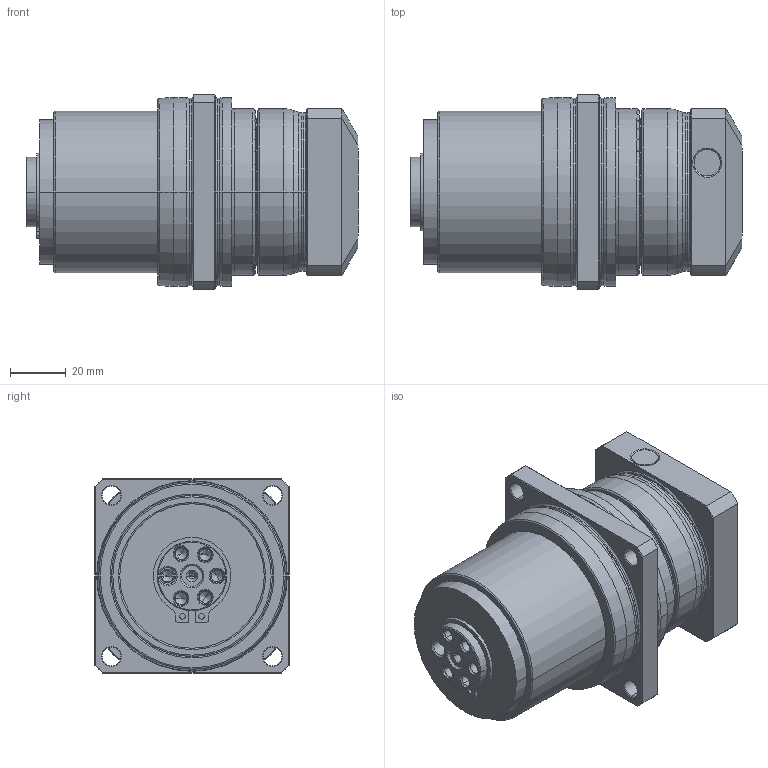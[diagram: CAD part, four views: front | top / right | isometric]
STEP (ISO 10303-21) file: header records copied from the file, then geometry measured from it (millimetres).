
FILE_DESCRIPTION((''),'2;1');
FILE_NAME('PL070_2ST_11-P0411200101_ASM','2016-06-04T',('d00435'),(''),'PRO/ENGINEER BY PARAMETRIC TECHNOLOGY CORPORATION, 2008410','PRO/ENGINEER BY PARAMETRIC TECHNOLOGY CORPORATION, 2008410','');
FILE_SCHEMA(('CONFIG_CONTROL_DESIGN'));
Length unit declared in the file: millimetre
Products named in the file (10): P0272200001; P1356200001; P0366200001; P0274200001; P1324200101; 22802000015; P0941201001; P0503200005; P0411200101; PL070_2ST_11-P0411200101_ASM
Assembly tree (9 placements, depth 2):
  PL070_2ST_11-P0411200101_ASM
    P0272200001
    P1356200001
    P0366200001
    P0274200001
    P1324200101
    22802000015
    P0941201001
    P0503200005
    P0411200101
Bounding box: 119.5 x 70 x 70 mm (x, y, z)
Volume: 289580 mm3; surface area: 87488.7 mm2
Topology: 9 solids, 24 shells, 543 faces, 1241 edges, 729 vertices
Faces by surface type: cone 174, cylinder 166, plane 101, torus 88, bspline 14
Entity records: 19873 total; most frequent: CARTESIAN_POINT 7342, DIRECTION 2858, ORIENTED_EDGE 2346, AXIS2_PLACEMENT_3D 1216, EDGE_CURVE 1203, VERTEX_POINT 729, CIRCLE 660, EDGE_LOOP 618
